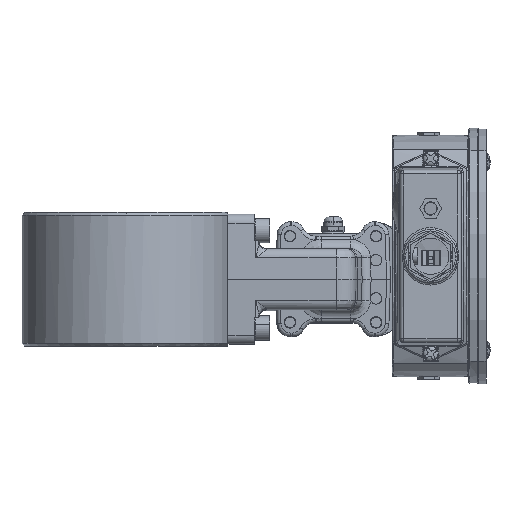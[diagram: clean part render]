
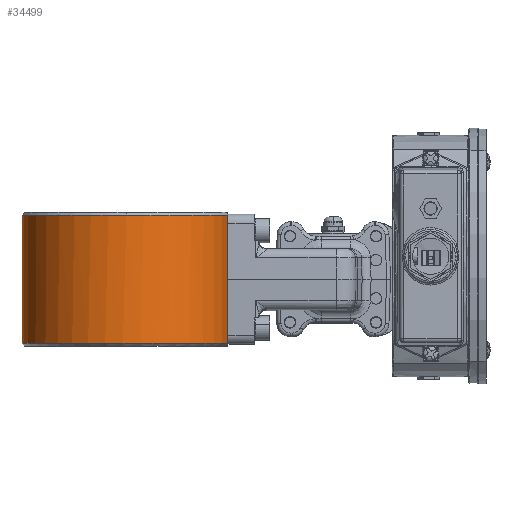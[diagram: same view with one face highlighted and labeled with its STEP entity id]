
A CAD part, front view. The second image highlights one B-rep face of the part: STEP entity #34499.
In plain terms, the highlighted cylindrical face has radius 54.5 mm (diameter 109 mm), a partial arc.
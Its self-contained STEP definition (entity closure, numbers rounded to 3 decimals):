
#2873 = ORIENTED_EDGE ( 'NONE', *, *, #17904, .T. ) ;
#5368 = ORIENTED_EDGE ( 'NONE', *, *, #64268, .T. ) ;
#5763 = ORIENTED_EDGE ( 'NONE', *, *, #7047, .T. ) ;
#7047 = EDGE_CURVE ( 'NONE', #28831, #61650, #34207, .T. ) ;
#13851 = ORIENTED_EDGE ( 'NONE', *, *, #66500, .T. ) ;
#15534 = DIRECTION ( 'NONE',  ( 0., 0., 1. ) ) ;
#15710 = DIRECTION ( 'NONE',  ( 0., 0., -1. ) ) ;
#17187 = VECTOR ( 'NONE', #15534, 1000. ) ;
#17904 = EDGE_CURVE ( 'NONE', #38692, #65065, #99282, .T. ) ;
#19684 = LINE ( 'NONE', #62481, #17187 ) ;
#22316 = ORIENTED_EDGE ( 'NONE', *, *, #73542, .T. ) ;
#22637 = AXIS2_PLACEMENT_3D ( 'NONE', #93400, #46720, #101160 ) ;
#25840 = DIRECTION ( 'NONE',  ( 0., 0., -1. ) ) ;
#26301 = CARTESIAN_POINT ( 'NONE',  ( -55.19, -80.392, -11.032 ) ) ;
#28152 = DIRECTION ( 'NONE',  ( 0., 0., -1. ) ) ;
#28831 = VERTEX_POINT ( 'NONE', #71139 ) ;
#33276 = AXIS2_PLACEMENT_3D ( 'NONE', #61674, #61589, #61009 ) ;
#34207 = CIRCLE ( 'NONE', #33276, 54.5 ) ;
#34499 = ADVANCED_FACE ( 'NONE', ( #91811 ), #71220, .T. ) ;
#38692 = VERTEX_POINT ( 'NONE', #88578 ) ;
#42962 = VERTEX_POINT ( 'NONE', #90840 ) ;
#44223 = CIRCLE ( 'NONE', #53419, 54.5 ) ;
#46720 = DIRECTION ( 'NONE',  ( 0., 0., -1. ) ) ;
#53419 = AXIS2_PLACEMENT_3D ( 'NONE', #62963, #15710, #70837 ) ;
#56790 = EDGE_LOOP ( 'NONE', ( #13851, #22316, #5763, #5368, #2873 ) ) ;
#61009 = DIRECTION ( 'NONE',  ( -1., 0., 0. ) ) ;
#61589 = DIRECTION ( 'NONE',  ( 0., 0., 1. ) ) ;
#61650 = VERTEX_POINT ( 'NONE', #26301 ) ;
#61674 = CARTESIAN_POINT ( 'NONE',  ( -108.19, -67.693, -11.032 ) ) ;
#62178 = VECTOR ( 'NONE', #25840, 1000. ) ;
#62481 = CARTESIAN_POINT ( 'NONE',  ( -55.19, -80.392, 57.468 ) ) ;
#62963 = CARTESIAN_POINT ( 'NONE',  ( -108.19, -67.693, 55.968 ) ) ;
#64268 = EDGE_CURVE ( 'NONE', #61650, #38692, #19684, .T. ) ;
#64378 = CARTESIAN_POINT ( 'NONE',  ( -108.19, -122.193, 55.968 ) ) ;
#65065 = VERTEX_POINT ( 'NONE', #64378 ) ;
#66500 = EDGE_CURVE ( 'NONE', #65065, #42962, #44223, .T. ) ;
#70837 = DIRECTION ( 'NONE',  ( -1., 0., 0. ) ) ;
#71139 = CARTESIAN_POINT ( 'NONE',  ( -162.69, -67.693, -11.032 ) ) ;
#71220 = CYLINDRICAL_SURFACE ( 'NONE', #80282, 54.5 ) ;
#73542 = EDGE_CURVE ( 'NONE', #42962, #28831, #101011, .T. ) ;
#80282 = AXIS2_PLACEMENT_3D ( 'NONE', #90767, #28152, #83040 ) ;
#80798 = CARTESIAN_POINT ( 'NONE',  ( -162.69, -67.693, 57.468 ) ) ;
#83040 = DIRECTION ( 'NONE',  ( -1., 0., 0. ) ) ;
#88578 = CARTESIAN_POINT ( 'NONE',  ( -55.19, -80.392, 55.968 ) ) ;
#90767 = CARTESIAN_POINT ( 'NONE',  ( -108.19, -67.693, 57.468 ) ) ;
#90840 = CARTESIAN_POINT ( 'NONE',  ( -162.69, -67.693, 55.968 ) ) ;
#91811 = FACE_OUTER_BOUND ( 'NONE', #56790, .T. ) ;
#93400 = CARTESIAN_POINT ( 'NONE',  ( -108.19, -67.693, 55.968 ) ) ;
#99282 = CIRCLE ( 'NONE', #22637, 54.5 ) ;
#101011 = LINE ( 'NONE', #80798, #62178 ) ;
#101160 = DIRECTION ( 'NONE',  ( -1., 0., 0. ) ) ;
